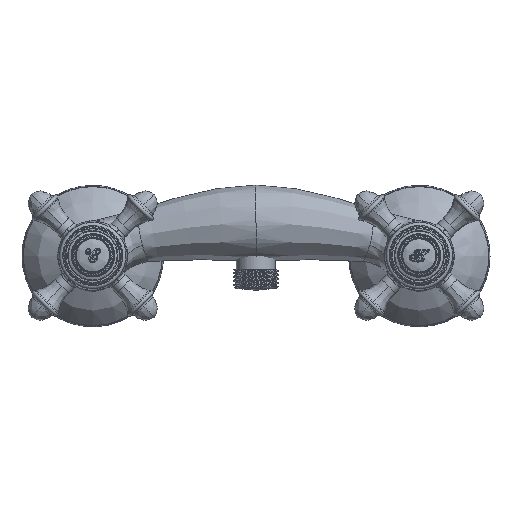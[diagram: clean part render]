
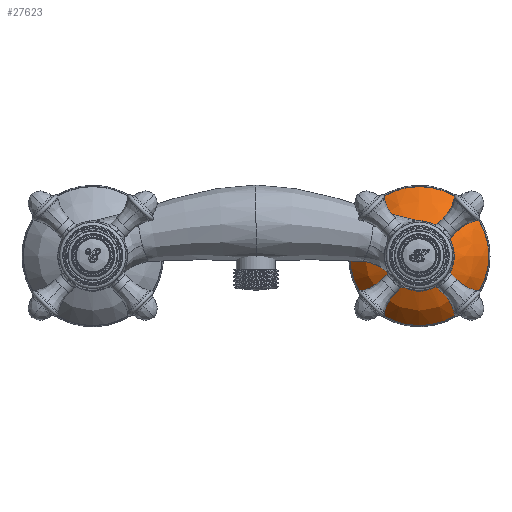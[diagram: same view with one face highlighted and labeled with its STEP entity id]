
A CAD part, top view. The second image highlights one B-rep face of the part: STEP entity #27623.
In plain terms, the highlighted free-form (B-spline) face has degree [2, 2] with [3, 9] control points.
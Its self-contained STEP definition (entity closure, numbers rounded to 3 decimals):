
#5189=(
BOUNDED_SURFACE()
B_SPLINE_SURFACE(2,2,((#72666,#72667,#72668,#72669,#72670,#72671,#72672,
#72673,#72674),(#72675,#72676,#72677,#72678,#72679,#72680,#72681,#72682,
#72683),(#72684,#72685,#72686,#72687,#72688,#72689,#72690,#72691,#72692)),
 .UNSPECIFIED.,.F.,.T.,.F.)
B_SPLINE_SURFACE_WITH_KNOTS((3,3),(3,2,2,2,3),(-1.255,-0.571),
(-3.142,-1.571,0.,1.571,3.142),
 .UNSPECIFIED.)
GEOMETRIC_REPRESENTATION_ITEM()
RATIONAL_B_SPLINE_SURFACE(((1.,0.707,1.,0.707,1.,
0.707,1.,0.707,1.),(0.942,0.666,
0.942,0.666,0.942,0.666,
0.942,0.666,0.942),(1.,0.707,
1.,0.707,1.,0.707,1.,0.707,1.)))
REPRESENTATION_ITEM('')
SURFACE()
);
#6247=FACE_OUTER_BOUND('',#7675,.T.);
#7675=EDGE_LOOP('',(#23382,#23383,#23384,#23385,#23386,#23387));
#9528=CIRCLE('',#30274,32.024);
#9529=CIRCLE('',#30275,32.024);
#9534=CIRCLE('',#30282,16.1);
#9535=CIRCLE('',#30283,16.1);
#9536=CIRCLE('',#30284,30.);
#11732=VERTEX_POINT('',#72636);
#11733=VERTEX_POINT('',#72637);
#11738=VERTEX_POINT('',#72693);
#11739=VERTEX_POINT('',#72694);
#16024=EDGE_CURVE('',#11732,#11733,#9528,.T.);
#16025=EDGE_CURVE('',#11733,#11732,#9529,.T.);
#16033=EDGE_CURVE('',#11738,#11739,#9534,.T.);
#16034=EDGE_CURVE('',#11739,#11738,#9535,.T.);
#16035=EDGE_CURVE('',#11739,#11733,#9536,.T.);
#23382=ORIENTED_EDGE('',*,*,#16033,.F.);
#23383=ORIENTED_EDGE('',*,*,#16034,.F.);
#23384=ORIENTED_EDGE('',*,*,#16035,.T.);
#23385=ORIENTED_EDGE('',*,*,#16025,.T.);
#23386=ORIENTED_EDGE('',*,*,#16024,.T.);
#23387=ORIENTED_EDGE('',*,*,#16035,.F.);
#27623=ADVANCED_FACE('',(#6247),#5189,.F.);
#30274=AXIS2_PLACEMENT_3D('',#72638,#36359,#36360);
#30275=AXIS2_PLACEMENT_3D('',#72639,#36361,#36362);
#30282=AXIS2_PLACEMENT_3D('',#72695,#36377,#36378);
#30283=AXIS2_PLACEMENT_3D('',#72696,#36379,#36380);
#30284=AXIS2_PLACEMENT_3D('',#72697,#36381,#36382);
#36359=DIRECTION('center_axis',(0.,0.,1.));
#36360=DIRECTION('ref_axis',(0.,-1.,0.));
#36361=DIRECTION('center_axis',(0.,0.,1.));
#36362=DIRECTION('ref_axis',(0.,-1.,0.));
#36377=DIRECTION('center_axis',(0.,0.,1.));
#36378=DIRECTION('ref_axis',(0.,-1.,0.));
#36379=DIRECTION('center_axis',(0.,0.,1.));
#36380=DIRECTION('ref_axis',(0.,-1.,0.));
#36381=DIRECTION('center_axis',(0.,1.,0.));
#36382=DIRECTION('ref_axis',(1.,0.,0.));
#72636=CARTESIAN_POINT('',(75.,-32.024,-47.379));
#72637=CARTESIAN_POINT('',(107.024,0.,-47.379));
#72638=CARTESIAN_POINT('Origin',(75.,0.,-47.379));
#72639=CARTESIAN_POINT('Origin',(75.,0.,-47.379));
#72666=CARTESIAN_POINT('Ctrl Pts',(91.1,0.,
-35.074));
#72667=CARTESIAN_POINT('Ctrl Pts',(91.1,-16.1,-35.074));
#72668=CARTESIAN_POINT('Ctrl Pts',(75.,-16.1,-35.074));
#72669=CARTESIAN_POINT('Ctrl Pts',(58.9,-16.1,-35.074));
#72670=CARTESIAN_POINT('Ctrl Pts',(58.9,0.,
-35.074));
#72671=CARTESIAN_POINT('Ctrl Pts',(58.9,16.1,-35.074));
#72672=CARTESIAN_POINT('Ctrl Pts',(75.,16.1,-35.074));
#72673=CARTESIAN_POINT('Ctrl Pts',(91.1,16.1,-35.074));
#72674=CARTESIAN_POINT('Ctrl Pts',(91.1,0.,
-35.074));
#72675=CARTESIAN_POINT('Ctrl Pts',(101.252,0.,
-38.392));
#72676=CARTESIAN_POINT('Ctrl Pts',(101.252,-26.252,-38.392));
#72677=CARTESIAN_POINT('Ctrl Pts',(75.,-26.252,-38.392));
#72678=CARTESIAN_POINT('Ctrl Pts',(48.748,-26.252,-38.392));
#72679=CARTESIAN_POINT('Ctrl Pts',(48.748,0.,
-38.392));
#72680=CARTESIAN_POINT('Ctrl Pts',(48.748,26.252,-38.392));
#72681=CARTESIAN_POINT('Ctrl Pts',(75.,26.252,-38.392));
#72682=CARTESIAN_POINT('Ctrl Pts',(101.252,26.252,-38.392));
#72683=CARTESIAN_POINT('Ctrl Pts',(101.252,0.,
-38.392));
#72684=CARTESIAN_POINT('Ctrl Pts',(107.024,0.,
-47.379));
#72685=CARTESIAN_POINT('Ctrl Pts',(107.024,-32.024,-47.379));
#72686=CARTESIAN_POINT('Ctrl Pts',(75.,-32.024,-47.379));
#72687=CARTESIAN_POINT('Ctrl Pts',(42.976,-32.024,-47.379));
#72688=CARTESIAN_POINT('Ctrl Pts',(42.976,0.,
-47.379));
#72689=CARTESIAN_POINT('Ctrl Pts',(42.976,32.024,-47.379));
#72690=CARTESIAN_POINT('Ctrl Pts',(75.,32.024,-47.379));
#72691=CARTESIAN_POINT('Ctrl Pts',(107.024,32.024,-47.379));
#72692=CARTESIAN_POINT('Ctrl Pts',(107.024,0.,
-47.379));
#72693=CARTESIAN_POINT('',(75.,-16.1,-35.074));
#72694=CARTESIAN_POINT('',(91.1,0.,-35.074));
#72695=CARTESIAN_POINT('Origin',(75.,0.,-35.074));
#72696=CARTESIAN_POINT('Origin',(75.,0.,-35.074));
#72697=CARTESIAN_POINT('Origin',(81.782,0.,
-63.59));
